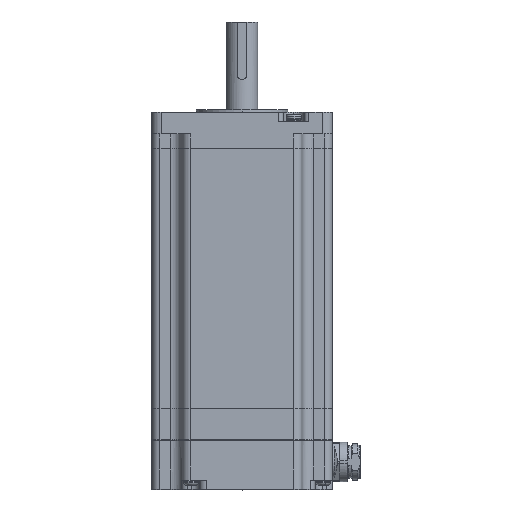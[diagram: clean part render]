
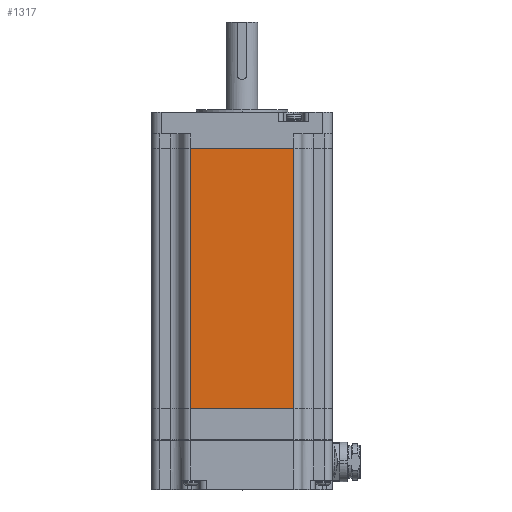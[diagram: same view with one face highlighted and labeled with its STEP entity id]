
A CAD part, left-side view. The second image highlights one B-rep face of the part: STEP entity #1317.
In plain terms, the highlighted planar face has unit normal (-1, 0, 0).
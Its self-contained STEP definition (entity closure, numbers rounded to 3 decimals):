
#325 = CARTESIAN_POINT ( 'NONE',  ( -75.826, 50.734, 79.21 ) ) ;
#1317 = ADVANCED_FACE ( 'NONE', ( #34269 ), #53606, .T. ) ;
#2060 = VERTEX_POINT ( 'NONE', #74198 ) ;
#4198 = CARTESIAN_POINT ( 'NONE',  ( -75.826, 50.734, 79.21 ) ) ;
#4271 = LINE ( 'NONE', #15143, #79121 ) ;
#4576 = CARTESIAN_POINT ( 'NONE',  ( -75.826, 50.734, -79.21 ) ) ;
#7567 = CARTESIAN_POINT ( 'NONE',  ( -75.826, 50.734, -79.21 ) ) ;
#9397 = ORIENTED_EDGE ( 'NONE', *, *, #39789, .T. ) ;
#10390 = ORIENTED_EDGE ( 'NONE', *, *, #22023, .F. ) ;
#12020 = ORIENTED_EDGE ( 'NONE', *, *, #46585, .F. ) ;
#12261 = VECTOR ( 'NONE', #49530, 1000. ) ;
#15143 = CARTESIAN_POINT ( 'NONE',  ( -75.826, 50.734, -79.21 ) ) ;
#19129 = VERTEX_POINT ( 'NONE', #325 ) ;
#22023 = EDGE_CURVE ( 'NONE', #19129, #50752, #22568, .T. ) ;
#22568 = LINE ( 'NONE', #4198, #12261 ) ;
#22870 = DIRECTION ( 'NONE',  ( 0., -1., 0. ) ) ;
#29900 = VERTEX_POINT ( 'NONE', #7567 ) ;
#30287 = VECTOR ( 'NONE', #37674, 1000. ) ;
#30959 = DIRECTION ( 'NONE',  ( 0., 0., 1. ) ) ;
#31648 = VECTOR ( 'NONE', #30959, 1000. ) ;
#34269 = FACE_OUTER_BOUND ( 'NONE', #34299, .T. ) ;
#34299 = EDGE_LOOP ( 'NONE', ( #10390, #12020, #9397, #82356 ) ) ;
#36349 = DIRECTION ( 'NONE',  ( -1., 0., 0. ) ) ;
#36415 = LINE ( 'NONE', #4576, #31648 ) ;
#37674 = DIRECTION ( 'NONE',  ( 0., 0., 1. ) ) ;
#38340 = CARTESIAN_POINT ( 'NONE',  ( -75.826, -12.266, 79.21 ) ) ;
#39789 = EDGE_CURVE ( 'NONE', #29900, #2060, #4271, .T. ) ;
#41559 = AXIS2_PLACEMENT_3D ( 'NONE', #49846, #36349, #22870 ) ;
#42412 = DIRECTION ( 'NONE',  ( 0., -1., 0. ) ) ;
#46585 = EDGE_CURVE ( 'NONE', #29900, #19129, #36415, .T. ) ;
#49530 = DIRECTION ( 'NONE',  ( 0., -1., 0. ) ) ;
#49846 = CARTESIAN_POINT ( 'NONE',  ( -75.826, 50.734, -79.21 ) ) ;
#50752 = VERTEX_POINT ( 'NONE', #38340 ) ;
#53606 = PLANE ( 'NONE',  #41559 ) ;
#57373 = CARTESIAN_POINT ( 'NONE',  ( -75.826, -12.266, -79.21 ) ) ;
#69610 = LINE ( 'NONE', #57373, #30287 ) ;
#74198 = CARTESIAN_POINT ( 'NONE',  ( -75.826, -12.266, -79.21 ) ) ;
#75703 = EDGE_CURVE ( 'NONE', #2060, #50752, #69610, .T. ) ;
#79121 = VECTOR ( 'NONE', #42412, 1000. ) ;
#82356 = ORIENTED_EDGE ( 'NONE', *, *, #75703, .T. ) ;
